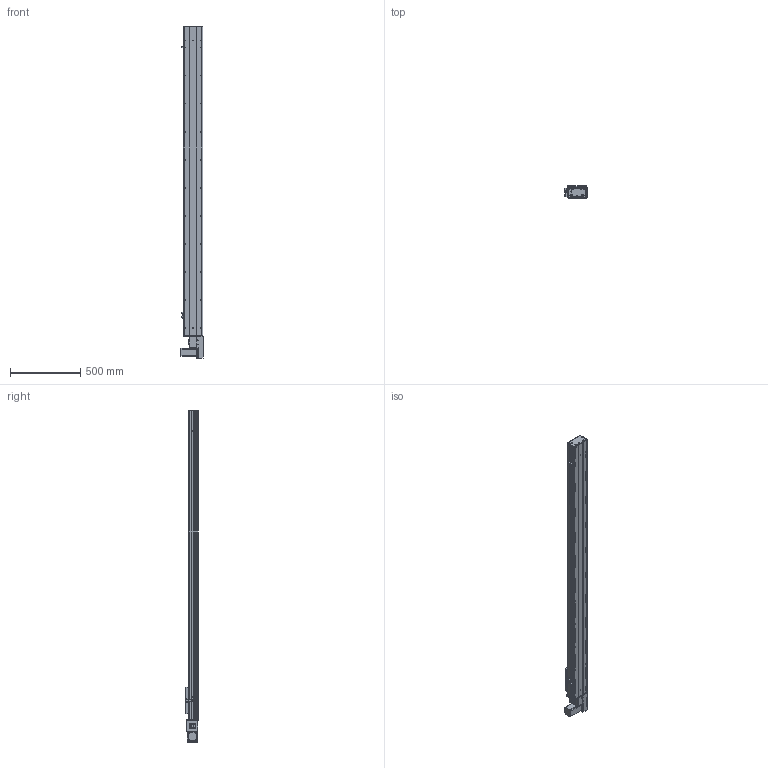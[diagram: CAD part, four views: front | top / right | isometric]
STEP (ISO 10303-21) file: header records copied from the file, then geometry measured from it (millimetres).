
FILE_DESCRIPTION (( 'STEP AP203' ), '1' );
FILE_NAME ('Y135CB-D90-S1900-BL-P400W.STEP', '2020-02-18T01:28:49', ( '微软用户' ), ( '微软中国' ), 'SwSTEP 2.0', 'SolidWorks 2017', '' );
FILE_SCHEMA (( 'CONFIG_CONTROL_DESIGN' ));
Length unit declared in the file: millimetre
Products named in the file (18): Y100-135俋离換覜ん--; Y俋欶BR----; 0B-埴倛裔啣; Y135C-陔俋离換覜結え-; 0B-源倛裔啣; 5C--俋欶; 0B-萇儂楊擘啣; Y135CB-耜裔; C-雄赽釱--; san松下电机400不带刹车----; 135CB---遴掛极.-; Y135CB-D90-S1900-BL-P400W; 5CB --掛极耜裔啣-; 35CB---喘謫眊楊擘啣; C-詩湍揤踡え-陔; Y10B--々湍喘謫眊--666; 135CB--詩湍-CE; Y10B-耜蚾蟀諉啣----
Assembly tree (21 placements, depth 2):
  Y135CB-D90-S1900-BL-P400W
    Y135CB-耜裔
    135CB---遴掛极.-
    35CB---喘謫眊楊擘啣
    Y10B--々湍喘謫眊--666
    Y10B-耜蚾蟀諉啣----
    Y俋欶BR----
    0B-埴倛裔啣
    0B-源倛裔啣
    0B-萇儂楊擘啣
    san松下电机400不带刹车----
    5CB --掛极耜裔啣-  x2
    C-詩湍揤踡え-陔  x2
    135CB--詩湍-CE
    Y100-135俋离換覜ん--  x3
    Y135C-陔俋离換覜結え-
    5C--俋欶
    C-雄赽釱--
Bounding box: 157.5 x 91 x 2364.5 mm (x, y, z)
Volume: 6724408.6 mm3; surface area: 2655647.3 mm2
Topology: 21 solids, 21 shells, 965 faces, 2617 edges, 1734 vertices
Faces by surface type: cylinder 491, plane 458, cone 16
Entity records: 30351 total; most frequent: DIRECTION 5041, CARTESIAN_POINT 5032, ORIENTED_EDGE 4710, EDGE_CURVE 2355, AXIS2_PLACEMENT_3D 1843, VERTEX_POINT 1562, LINE 1355, VECTOR 1355
